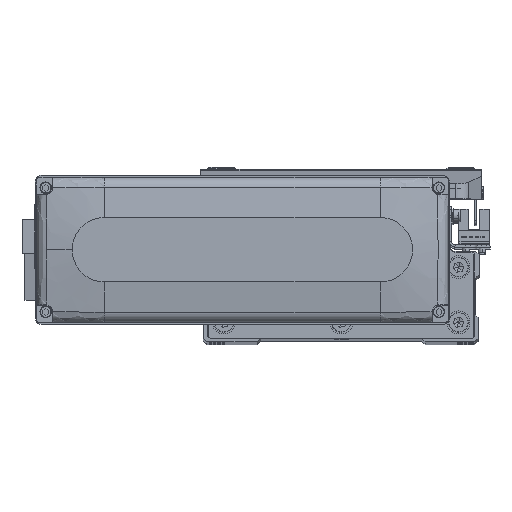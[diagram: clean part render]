
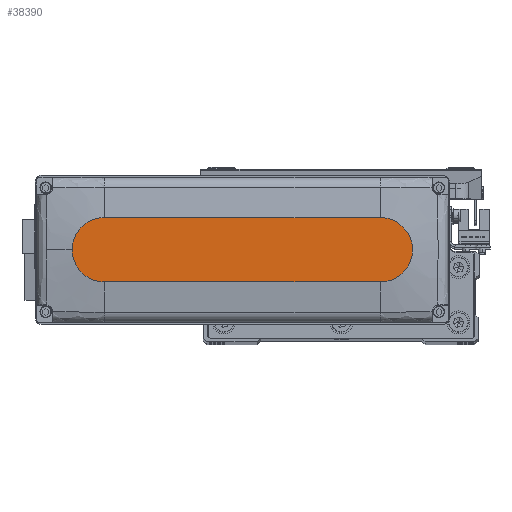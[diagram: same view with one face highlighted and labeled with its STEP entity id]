
A CAD part, top view. The second image highlights one B-rep face of the part: STEP entity #38390.
In plain terms, the highlighted planar face has unit normal (0, 0, 1).
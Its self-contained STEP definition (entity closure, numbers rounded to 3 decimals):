
#897 = VERTEX_POINT ( 'NONE', #28784 ) ;
#1565 = LINE ( 'NONE', #15333, #32881 ) ;
#1884 = ORIENTED_EDGE ( 'NONE', *, *, #38480, .T. ) ;
#2089 = DIRECTION ( 'NONE',  ( 1., 0., 0. ) ) ;
#4093 = DIRECTION ( 'NONE',  ( 0., 0., 1. ) ) ;
#5470 = PLANE ( 'NONE',  #32557 ) ;
#6148 = DIRECTION ( 'NONE',  ( 0., 0., 1. ) ) ;
#8101 = CIRCLE ( 'NONE', #13885, 14. ) ;
#8813 = AXIS2_PLACEMENT_3D ( 'NONE', #37019, #6148, #19900 ) ;
#9507 = VERTEX_POINT ( 'NONE', #20547 ) ;
#9512 = CARTESIAN_POINT ( 'NONE',  ( 60., 0., 28.5 ) ) ;
#9676 = LINE ( 'NONE', #23399, #19804 ) ;
#9995 = ORIENTED_EDGE ( 'NONE', *, *, #38686, .T. ) ;
#11444 = AXIS2_PLACEMENT_3D ( 'NONE', #9512, #23241, #36985 ) ;
#11893 = EDGE_CURVE ( 'NONE', #35928, #897, #1565, .T. ) ;
#13576 = CARTESIAN_POINT ( 'NONE',  ( 60., 14., 28.5 ) ) ;
#13885 = AXIS2_PLACEMENT_3D ( 'NONE', #34980, #4093, #17857 ) ;
#15333 = CARTESIAN_POINT ( 'NONE',  ( -60., -14., 28.5 ) ) ;
#17356 = EDGE_CURVE ( 'NONE', #897, #9507, #30882, .T. ) ;
#17857 = DIRECTION ( 'NONE',  ( 1., 0., 0. ) ) ;
#19047 = ORIENTED_EDGE ( 'NONE', *, *, #11893, .T. ) ;
#19230 = CARTESIAN_POINT ( 'NONE',  ( 0., 0., 28.5 ) ) ;
#19804 = VECTOR ( 'NONE', #37154, 1000. ) ;
#19900 = DIRECTION ( 'NONE',  ( 1., 0., 0. ) ) ;
#20547 = CARTESIAN_POINT ( 'NONE',  ( 74., 0., 28.5 ) ) ;
#22508 = VERTEX_POINT ( 'NONE', #30397 ) ;
#23241 = DIRECTION ( 'NONE',  ( 0., 0., 1. ) ) ;
#23399 = CARTESIAN_POINT ( 'NONE',  ( -60., 14., 28.5 ) ) ;
#27556 = ORIENTED_EDGE ( 'NONE', *, *, #17356, .T. ) ;
#28235 = CIRCLE ( 'NONE', #8813, 14. ) ;
#28784 = CARTESIAN_POINT ( 'NONE',  ( 60., -14., 28.5 ) ) ;
#29064 = DIRECTION ( 'NONE',  ( 1., 0., 0. ) ) ;
#29257 = CARTESIAN_POINT ( 'NONE',  ( -60., -14., 28.5 ) ) ;
#29355 = EDGE_CURVE ( 'NONE', #30237, #22508, #9676, .T. ) ;
#30237 = VERTEX_POINT ( 'NONE', #13576 ) ;
#30397 = CARTESIAN_POINT ( 'NONE',  ( -60., 14., 28.5 ) ) ;
#30719 = EDGE_LOOP ( 'NONE', ( #31603, #1884, #19047, #27556, #9995 ) ) ;
#30882 = CIRCLE ( 'NONE', #11444, 14. ) ;
#31603 = ORIENTED_EDGE ( 'NONE', *, *, #29355, .T. ) ;
#32557 = AXIS2_PLACEMENT_3D ( 'NONE', #19230, #32985, #2089 ) ;
#32881 = VECTOR ( 'NONE', #29064, 1000. ) ;
#32985 = DIRECTION ( 'NONE',  ( 0., 0., 1. ) ) ;
#34980 = CARTESIAN_POINT ( 'NONE',  ( 60., 0., 28.5 ) ) ;
#35928 = VERTEX_POINT ( 'NONE', #29257 ) ;
#36347 = FACE_OUTER_BOUND ( 'NONE', #30719, .T. ) ;
#36985 = DIRECTION ( 'NONE',  ( 1., 0., 0. ) ) ;
#37019 = CARTESIAN_POINT ( 'NONE',  ( -60., 0., 28.5 ) ) ;
#37154 = DIRECTION ( 'NONE',  ( -1., 0., 0. ) ) ;
#38390 = ADVANCED_FACE ( 'NONE', ( #36347 ), #5470, .T. ) ;
#38480 = EDGE_CURVE ( 'NONE', #22508, #35928, #28235, .T. ) ;
#38686 = EDGE_CURVE ( 'NONE', #9507, #30237, #8101, .T. ) ;
